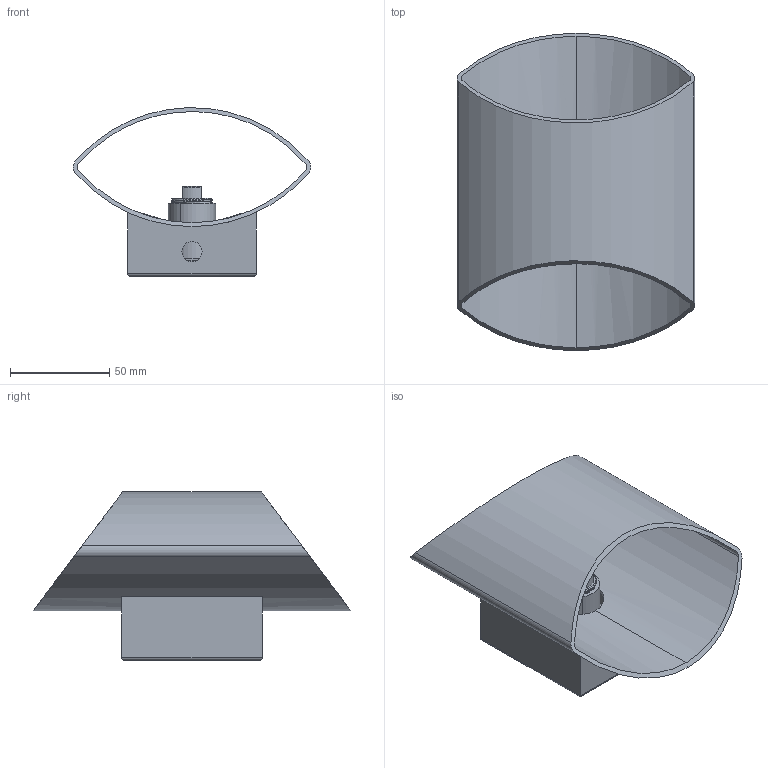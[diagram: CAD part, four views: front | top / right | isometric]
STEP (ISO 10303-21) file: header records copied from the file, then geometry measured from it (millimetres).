
FILE_DESCRIPTION (( 'STEP AP214' ), '1' );
FILE_NAME ('說倛欶苤族腑.STEP', '2016-12-23T00:22:08', ( '' ), ( '' ), 'SwSTEP 2.0', 'SolidWorks 2016', '' );
FILE_SCHEMA (( 'AUTOMOTIVE_DESIGN' ));
Length unit declared in the file: millimetre
Products named in the file (13): 苤說倛欶; 10.5擅豪賡赽; 71鎮偽族釱爾諉璃; 10爾諉盓殤; K540L-01綴釱; 蹟譫M10x1x2.5; 說倛欶苤族腑; 35臏杶奪A; M4X8内六角圆柱头螺丝; G9 K540L; G9腑芛郪磁璃; 32盓殤A; 68鎮偽族釱
Assembly tree (12 placements, depth 3):
  說倛欶苤族腑
    71鎮偽族釱爾諉璃
      68鎮偽族釱
      10爾諉盓殤
      32盓殤A
    苤說倛欶
    10.5擅豪賡赽
    G9腑芛郪磁璃
      K540L-01綴釱
      G9 K540L
    35臏杶奪A
    M4X8内六角圆柱头螺丝
    蹟譫M10x1x2.5
Bounding box: 119.99 x 160 x 85.05 mm (x, y, z)
Volume: 81359.4 mm3; surface area: 100511.1 mm2
Topology: 10 solids, 10 shells, 418 faces, 1113 edges, 715 vertices
Faces by surface type: plane 195, cylinder 174, torus 25, bspline 13, sphere 9, cone 2
Entity records: 17918 total; most frequent: CARTESIAN_POINT 5799, ORIENTED_EDGE 2218, DIRECTION 2165, EDGE_CURVE 1109, AXIS2_PLACEMENT_3D 767, VERTEX_POINT 713, LINE 631, VECTOR 631
